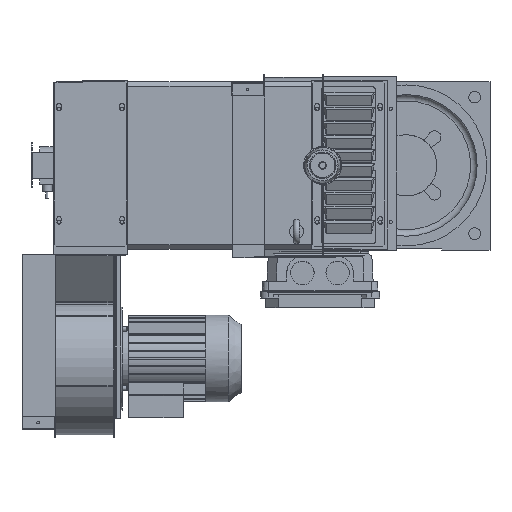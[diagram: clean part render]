
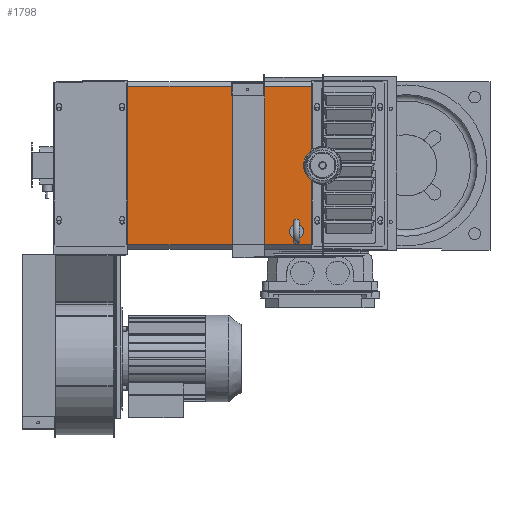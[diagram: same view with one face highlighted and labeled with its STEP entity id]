
A CAD part, left-side view. The second image highlights one B-rep face of the part: STEP entity #1798.
In plain terms, the highlighted planar face has unit normal (-1, 0, 0).
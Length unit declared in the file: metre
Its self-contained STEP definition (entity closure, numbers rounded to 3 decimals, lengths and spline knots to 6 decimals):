
#1798 = ADVANCED_FACE( '', ( #4051, #4052 ), #4053, .F. );
#4051 = FACE_OUTER_BOUND( '', #6477, .T. );
#4052 = FACE_BOUND( '', #6478, .T. );
#4053 = PLANE( '', #6479 );
#6477 = EDGE_LOOP( '', ( #13697, #13698, #13699, #13700 ) );
#6478 = EDGE_LOOP( '', ( #13701 ) );
#6479 = AXIS2_PLACEMENT_3D( '', #13702, #13703, #13704 );
#13697 = ORIENTED_EDGE( '', *, *, #16603, .T. );
#13698 = ORIENTED_EDGE( '', *, *, #16569, .F. );
#13699 = ORIENTED_EDGE( '', *, *, #16604, .T. );
#13700 = ORIENTED_EDGE( '', *, *, #16502, .F. );
#13701 = ORIENTED_EDGE( '', *, *, #16605, .T. );
#13702 = CARTESIAN_POINT( '', ( -0.13, 0.3055, 0. ) );
#13703 = DIRECTION( '', ( 1., 0., 0. ) );
#13704 = DIRECTION( '', ( 0., 0., -1. ) );
#16502 = EDGE_CURVE( '', #20251, #20253, #20254, .T. );
#16569 = EDGE_CURVE( '', #20370, #20372, #20373, .T. );
#16603 = EDGE_CURVE( '', #20251, #20372, #20430, .T. );
#16604 = EDGE_CURVE( '', #20370, #20253, #20431, .T. );
#16605 = EDGE_CURVE( '', #20432, #20432, #20433, .T. );
#20251 = VERTEX_POINT( '', #25741 );
#20253 = VERTEX_POINT( '', #25744 );
#20254 = LINE( '', #25745, #25746 );
#20370 = VERTEX_POINT( '', #25890 );
#20372 = VERTEX_POINT( '', #25893 );
#20373 = LINE( '', #25894, #25895 );
#20430 = LINE( '', #25967, #25968 );
#20431 = LINE( '', #25969, #25970 );
#20432 = VERTEX_POINT( '', #25971 );
#20433 = CIRCLE( '', #25972, 0.004 );
#25741 = CARTESIAN_POINT( '', ( -0.13, 0.0175, 0.123 ) );
#25744 = CARTESIAN_POINT( '', ( -0.13, 0.0175, -0.123 ) );
#25745 = CARTESIAN_POINT( '', ( -0.13, 0.0175, 0. ) );
#25746 = VECTOR( '', #29702, 1. );
#25890 = CARTESIAN_POINT( '', ( -0.13, 0.3025, -0.123 ) );
#25893 = CARTESIAN_POINT( '', ( -0.13, 0.3025, 0.123 ) );
#25894 = CARTESIAN_POINT( '', ( -0.13, 0.3025, 0. ) );
#25895 = VECTOR( '', #29843, 1. );
#25967 = CARTESIAN_POINT( '', ( -0.13, 0.3055, 0.123 ) );
#25968 = VECTOR( '', #29913, 1. );
#25969 = CARTESIAN_POINT( '', ( -0.13, 0.3055, -0.123 ) );
#25970 = VECTOR( '', #29914, 1. );
#25971 = CARTESIAN_POINT( '', ( -0.13, 0.0405, -0.098573 ) );
#25972 = AXIS2_PLACEMENT_3D( '', #29915, #29916, #29917 );
#29702 = DIRECTION( '', ( 0., 0., -1. ) );
#29843 = DIRECTION( '', ( 0., 0., 1. ) );
#29913 = DIRECTION( '', ( 0., 1., 0. ) );
#29914 = DIRECTION( '', ( 0., -1., 0. ) );
#29915 = CARTESIAN_POINT( '', ( -0.13, 0.0405, -0.102573 ) );
#29916 = DIRECTION( '', ( 1., 0., 0. ) );
#29917 = DIRECTION( '', ( 0., 0., 1. ) );
